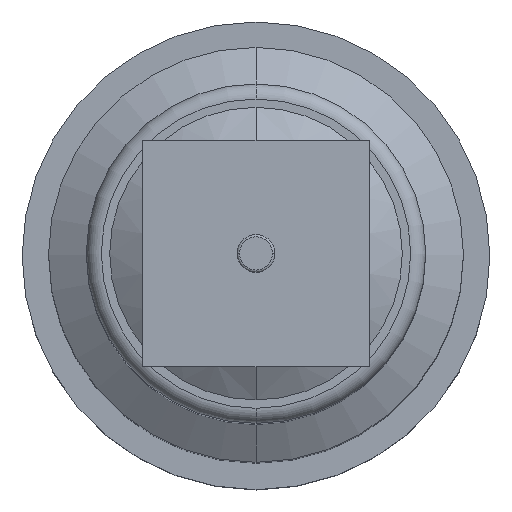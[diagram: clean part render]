
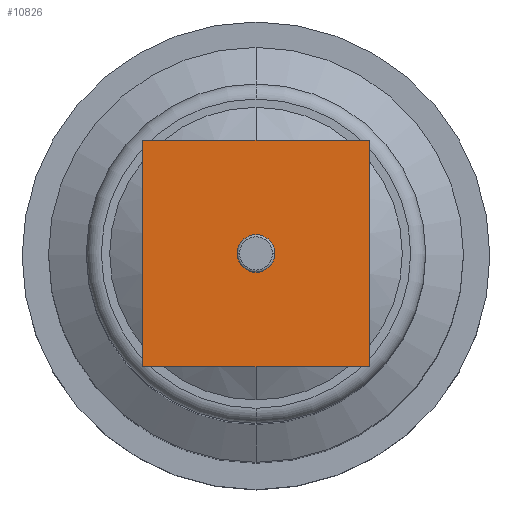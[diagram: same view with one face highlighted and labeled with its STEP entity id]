
A CAD part, top view. The second image highlights one B-rep face of the part: STEP entity #10826.
In plain terms, the highlighted planar face has unit normal (0, 0, 1).
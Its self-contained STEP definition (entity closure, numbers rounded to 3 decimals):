
#55 = VERTEX_POINT ( 'NONE', #11329 ) ;
#234 = CARTESIAN_POINT ( 'NONE',  ( 15., -15., 220. ) ) ;
#1242 = CARTESIAN_POINT ( 'NONE',  ( 15., 15., 220. ) ) ;
#1391 = VERTEX_POINT ( 'NONE', #1242 ) ;
#1587 = CARTESIAN_POINT ( 'NONE',  ( -15., -15., 220. ) ) ;
#2231 = VECTOR ( 'NONE', #6882, 1000. ) ;
#2426 = FACE_OUTER_BOUND ( 'NONE', #2724, .T. ) ;
#2724 = EDGE_LOOP ( 'NONE', ( #7142, #7924, #9433, #14758 ) ) ;
#4258 = VERTEX_POINT ( 'NONE', #1587 ) ;
#4346 = CARTESIAN_POINT ( 'NONE',  ( 15., 15., 220. ) ) ;
#4460 = DIRECTION ( 'NONE',  ( 1., 0., 0. ) ) ;
#4838 = LINE ( 'NONE', #11234, #7509 ) ;
#4954 = CARTESIAN_POINT ( 'NONE',  ( -15., -15., 220. ) ) ;
#5052 = VECTOR ( 'NONE', #11946, 1000. ) ;
#5498 = DIRECTION ( 'NONE',  ( 0., 1., 0. ) ) ;
#5609 = DIRECTION ( 'NONE',  ( 0., 0., 1. ) ) ;
#5615 = DIRECTION ( 'NONE',  ( -1., 0., 0. ) ) ;
#6134 = EDGE_CURVE ( 'NONE', #55, #4258, #8316, .T. ) ;
#6467 = LINE ( 'NONE', #4954, #5052 ) ;
#6882 = DIRECTION ( 'NONE',  ( 0., -1., 0. ) ) ;
#7078 = EDGE_CURVE ( 'NONE', #13261, #1391, #11534, .T. ) ;
#7142 = ORIENTED_EDGE ( 'NONE', *, *, #6134, .T. ) ;
#7509 = VECTOR ( 'NONE', #5615, 1000. ) ;
#7924 = ORIENTED_EDGE ( 'NONE', *, *, #12142, .T. ) ;
#7966 = PLANE ( 'NONE',  #13172 ) ;
#8316 = LINE ( 'NONE', #13130, #2231 ) ;
#9433 = ORIENTED_EDGE ( 'NONE', *, *, #7078, .T. ) ;
#10826 = ADVANCED_FACE ( 'NONE', ( #2426 ), #7966, .T. ) ;
#11234 = CARTESIAN_POINT ( 'NONE',  ( -15., 15., 220. ) ) ;
#11329 = CARTESIAN_POINT ( 'NONE',  ( -15., 15., 220. ) ) ;
#11534 = LINE ( 'NONE', #4346, #13467 ) ;
#11946 = DIRECTION ( 'NONE',  ( 1., 0., 0. ) ) ;
#12142 = EDGE_CURVE ( 'NONE', #4258, #13261, #6467, .T. ) ;
#12913 = EDGE_CURVE ( 'NONE', #1391, #55, #4838, .T. ) ;
#13130 = CARTESIAN_POINT ( 'NONE',  ( -15., 15., 220. ) ) ;
#13172 = AXIS2_PLACEMENT_3D ( 'NONE', #13513, #5609, #4460 ) ;
#13261 = VERTEX_POINT ( 'NONE', #234 ) ;
#13467 = VECTOR ( 'NONE', #5498, 1000. ) ;
#13513 = CARTESIAN_POINT ( 'NONE',  ( 0., 0., 220. ) ) ;
#14758 = ORIENTED_EDGE ( 'NONE', *, *, #12913, .T. ) ;
